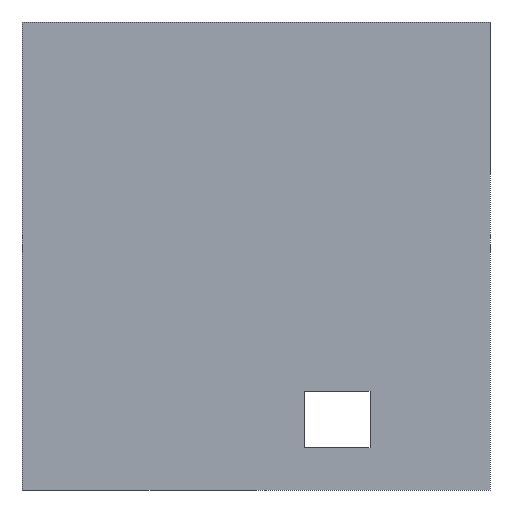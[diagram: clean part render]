
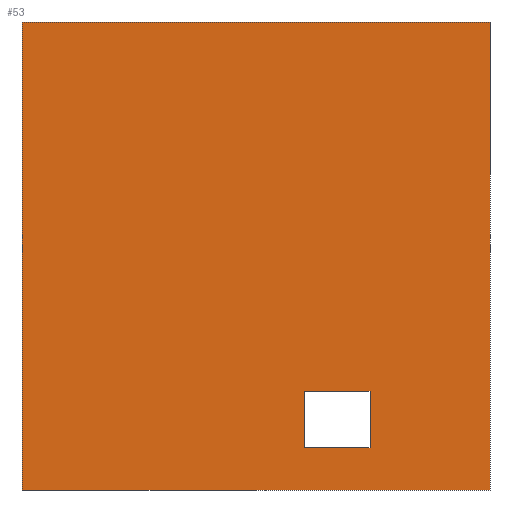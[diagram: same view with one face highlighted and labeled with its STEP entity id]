
A CAD part, left-side view. The second image highlights one B-rep face of the part: STEP entity #53.
In plain terms, the highlighted planar face has unit normal (-1, 0, 0).
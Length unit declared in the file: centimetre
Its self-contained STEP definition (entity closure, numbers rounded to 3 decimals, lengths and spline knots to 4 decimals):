
#13 = LINE ( 'NONE', #120, #47 ) ;
#18 = CARTESIAN_POINT ( 'NONE',  ( 0., 256.4095, 210.4791 ) ) ;
#27 = ORIENTED_EDGE ( 'NONE', *, *, #384, .T. ) ;
#30 = VERTEX_POINT ( 'NONE', #198 ) ;
#33 = AXIS2_PLACEMENT_3D ( 'NONE', #249, #393, #588 ) ;
#35 = LINE ( 'NONE', #340, #135 ) ;
#47 = VECTOR ( 'NONE', #272, 100. ) ;
#48 = VECTOR ( 'NONE', #314, 100. ) ;
#53 = ADVANCED_FACE ( 'NONE', ( #639, #440 ), #196, .F. ) ;
#54 = CARTESIAN_POINT ( 'NONE',  ( 0., 256.4095, 89.775 ) ) ;
#57 = VECTOR ( 'NONE', #108, 100. ) ;
#69 = EDGE_CURVE ( 'NONE', #469, #30, #152, .T. ) ;
#76 = EDGE_CURVE ( 'NONE', #288, #469, #13, .T. ) ;
#89 = VERTEX_POINT ( 'NONE', #111 ) ;
#93 = VECTOR ( 'NONE', #633, 100. ) ;
#102 = CARTESIAN_POINT ( 'NONE',  ( 0., 395.8077, 210.4791 ) ) ;
#106 = LINE ( 'NONE', #526, #93 ) ;
#108 = DIRECTION ( 'NONE',  ( 0., 0., -1. ) ) ;
#111 = CARTESIAN_POINT ( 'NONE',  ( 0., 1000., 0. ) ) ;
#120 = CARTESIAN_POINT ( 'NONE',  ( 0., 1000., 1000. ) ) ;
#135 = VECTOR ( 'NONE', #333, 100. ) ;
#152 = LINE ( 'NONE', #349, #57 ) ;
#195 = EDGE_CURVE ( 'NONE', #259, #218, #207, .T. ) ;
#196 = PLANE ( 'NONE',  #33 ) ;
#198 = CARTESIAN_POINT ( 'NONE',  ( 0., 0., 0. ) ) ;
#204 = ORIENTED_EDGE ( 'NONE', *, *, #76, .F. ) ;
#207 = LINE ( 'NONE', #311, #48 ) ;
#209 = EDGE_CURVE ( 'NONE', #218, #519, #500, .T. ) ;
#218 = VERTEX_POINT ( 'NONE', #560 ) ;
#234 = VECTOR ( 'NONE', #331, 100. ) ;
#236 = ORIENTED_EDGE ( 'NONE', *, *, #568, .F. ) ;
#249 = CARTESIAN_POINT ( 'NONE',  ( 0., 1000., 1000. ) ) ;
#259 = VERTEX_POINT ( 'NONE', #54 ) ;
#272 = DIRECTION ( 'NONE',  ( 0., -1., 0. ) ) ;
#280 = LINE ( 'NONE', #389, #234 ) ;
#288 = VERTEX_POINT ( 'NONE', #368 ) ;
#298 = VECTOR ( 'NONE', #455, 100. ) ;
#311 = CARTESIAN_POINT ( 'NONE',  ( 0., 256.4095, 89.775 ) ) ;
#314 = DIRECTION ( 'NONE',  ( 0., 0., 1. ) ) ;
#322 = EDGE_CURVE ( 'NONE', #332, #259, #35, .T. ) ;
#331 = DIRECTION ( 'NONE',  ( 0., -1., 0. ) ) ;
#332 = VERTEX_POINT ( 'NONE', #525 ) ;
#333 = DIRECTION ( 'NONE',  ( 0., -1., 0. ) ) ;
#340 = CARTESIAN_POINT ( 'NONE',  ( 0., 256.4095, 89.775 ) ) ;
#341 = DIRECTION ( 'NONE',  ( 0., 0., -1. ) ) ;
#349 = CARTESIAN_POINT ( 'NONE',  ( 0., 0., 1000. ) ) ;
#368 = CARTESIAN_POINT ( 'NONE',  ( 0., 1000., 1000. ) ) ;
#382 = ORIENTED_EDGE ( 'NONE', *, *, #555, .T. ) ;
#384 = EDGE_CURVE ( 'NONE', #89, #30, #280, .T. ) ;
#389 = CARTESIAN_POINT ( 'NONE',  ( 0., 1000., 0. ) ) ;
#393 = DIRECTION ( 'NONE',  ( 1., 0., 0. ) ) ;
#413 = ORIENTED_EDGE ( 'NONE', *, *, #322, .F. ) ;
#414 = EDGE_LOOP ( 'NONE', ( #634, #413, #236, #565 ) ) ;
#417 = ORIENTED_EDGE ( 'NONE', *, *, #69, .F. ) ;
#427 = LINE ( 'NONE', #533, #626 ) ;
#440 = FACE_OUTER_BOUND ( 'NONE', #452, .T. ) ;
#452 = EDGE_LOOP ( 'NONE', ( #27, #417, #204, #382 ) ) ;
#455 = DIRECTION ( 'NONE',  ( 0., 1., 0. ) ) ;
#468 = CARTESIAN_POINT ( 'NONE',  ( 0., 0., 1000. ) ) ;
#469 = VERTEX_POINT ( 'NONE', #468 ) ;
#500 = LINE ( 'NONE', #18, #298 ) ;
#519 = VERTEX_POINT ( 'NONE', #102 ) ;
#525 = CARTESIAN_POINT ( 'NONE',  ( 0., 395.8077, 89.775 ) ) ;
#526 = CARTESIAN_POINT ( 'NONE',  ( 0., 1000., 1000. ) ) ;
#533 = CARTESIAN_POINT ( 'NONE',  ( 0., 395.8077, 89.775 ) ) ;
#555 = EDGE_CURVE ( 'NONE', #288, #89, #106, .T. ) ;
#560 = CARTESIAN_POINT ( 'NONE',  ( 0., 256.4095, 210.4791 ) ) ;
#565 = ORIENTED_EDGE ( 'NONE', *, *, #209, .F. ) ;
#568 = EDGE_CURVE ( 'NONE', #519, #332, #427, .T. ) ;
#588 = DIRECTION ( 'NONE',  ( 0., 0., -1. ) ) ;
#626 = VECTOR ( 'NONE', #341, 100. ) ;
#633 = DIRECTION ( 'NONE',  ( 0., 0., -1. ) ) ;
#634 = ORIENTED_EDGE ( 'NONE', *, *, #195, .F. ) ;
#639 = FACE_BOUND ( 'NONE', #414, .T. ) ;
